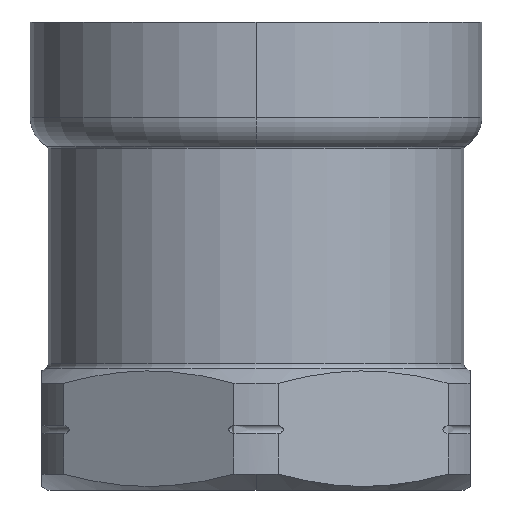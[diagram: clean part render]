
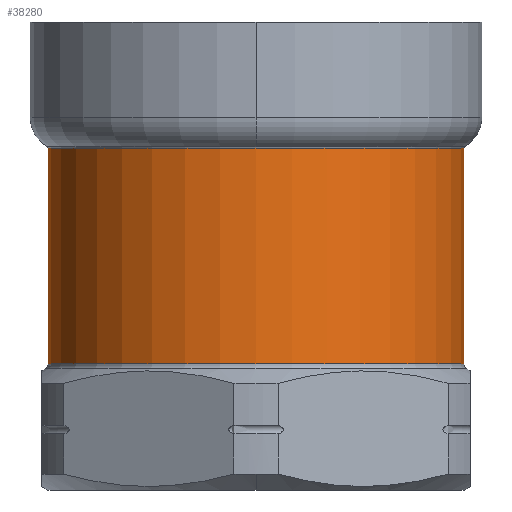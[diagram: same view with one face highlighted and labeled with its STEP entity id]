
A CAD part, left-side view. The second image highlights one B-rep face of the part: STEP entity #38280.
In plain terms, the highlighted cylindrical face has radius 33.95 mm (diameter 67.9 mm), a partial arc.
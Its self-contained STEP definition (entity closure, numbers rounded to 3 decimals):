
#5790=CARTESIAN_POINT('',(106.882,15.145,0.));
#5800=VERTEX_POINT('',#5790);
#5850=CARTESIAN_POINT('',(106.882,49.095,0.));
#5860=DIRECTION('',(1.,0.,0.));
#5870=DIRECTION('',(0.,-1.,0.));
#5880=AXIS2_PLACEMENT_3D('',#5850,#5860,#5870);
#5890=CIRCLE('',#5880,33.95);
#5900=CARTESIAN_POINT('',(106.882,83.045,0.));
#5910=VERTEX_POINT('',#5900);
#36640=CARTESIAN_POINT('',(71.695,49.095,
0.));
#36650=DIRECTION('',(-1.,0.,0.));
#36660=DIRECTION('',(0.,1.,0.));
#36670=AXIS2_PLACEMENT_3D('',#36640,#36650,#36660);
#36680=CIRCLE('',#36670,33.95);
#36710=CARTESIAN_POINT('',(71.695,83.045,
0.));
#36720=VERTEX_POINT('',#36710);
#36750=CARTESIAN_POINT('',(71.495,83.045,
0.));
#36760=DIRECTION('',(1.,0.,0.));
#36770=VECTOR('',#36760,1.);
#36780=LINE('',#36750,#36770);
#36790=EDGE_CURVE('',#36720,#5910,#36780,.T.);
#36820=CARTESIAN_POINT('',(71.495,15.145,
0.));
#36830=DIRECTION('',(1.,0.,0.));
#36840=VECTOR('',#36830,1.);
#36850=LINE('',#36820,#36840);
#36860=CARTESIAN_POINT('',(71.695,15.145,
0.));
#36870=VERTEX_POINT('',#36860);
#36880=EDGE_CURVE('',#36870,#5800,#36850,.T.);
#38150=CARTESIAN_POINT('',(71.495,49.095,0.));
#38160=DIRECTION('',(1.,0.,0.));
#38170=DIRECTION('',(0.,1.,0.));
#38180=AXIS2_PLACEMENT_3D('',#38150,#38160,#38170);
#38190=CYLINDRICAL_SURFACE('',#38180,33.95);
#38200=EDGE_CURVE('',#36720,#36870,#36680,.T.);
#38210=ORIENTED_EDGE('',*,*,#38200,.F.);
#38220=ORIENTED_EDGE('',*,*,#36880,.F.);
#38230=EDGE_CURVE('',#5800,#5910,#5890,.T.);
#38240=ORIENTED_EDGE('',*,*,#38230,.F.);
#38250=ORIENTED_EDGE('',*,*,#36790,.T.);
#38260=EDGE_LOOP('',(#38250,#38240,#38220,#38210));
#38270=FACE_OUTER_BOUND('',#38260,.T.);
#38280=ADVANCED_FACE('',(#38270),#38190,.T.);
